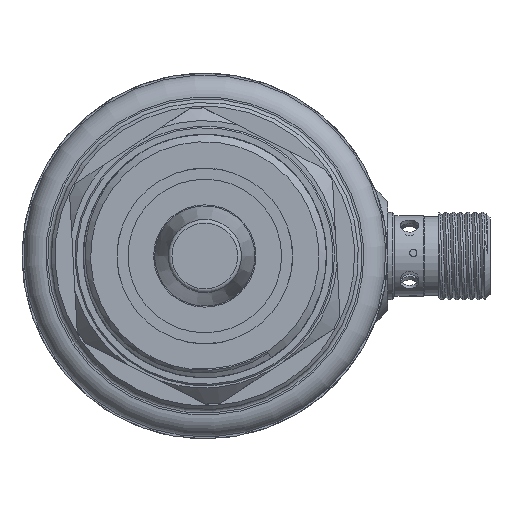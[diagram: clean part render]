
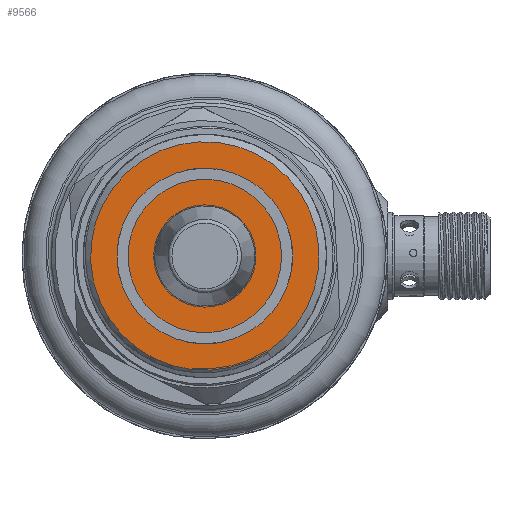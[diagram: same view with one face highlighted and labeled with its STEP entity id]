
A CAD part, front view. The second image highlights one B-rep face of the part: STEP entity #9566.
In plain terms, the highlighted planar face has unit normal (0, -1, 0) as drawn and (-1, 0, 0) by its records, which use the part's own axes.
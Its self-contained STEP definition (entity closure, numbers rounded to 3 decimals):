
#498 = EDGE_LOOP ( 'NONE', ( #2296 ) ) ;
#866 = CARTESIAN_POINT ( 'NONE',  ( 2.5, 0., -7.125 ) ) ;
#1013 = CARTESIAN_POINT ( 'NONE',  ( 2.5, 0., -15.901 ) ) ;
#1470 = DIRECTION ( 'NONE',  ( 0., 0., -1. ) ) ;
#2056 = VERTEX_POINT ( 'NONE', #1013 ) ;
#2296 = ORIENTED_EDGE ( 'NONE', *, *, #5737, .T. ) ;
#2957 = DIRECTION ( 'NONE',  ( 0., 0., -1. ) ) ;
#3328 = CIRCLE ( 'NONE', #12912, 15.626 ) ;
#3643 = FACE_OUTER_BOUND ( 'NONE', #13728, .T. ) ;
#3855 = FACE_BOUND ( 'NONE', #498, .T. ) ;
#5024 = CARTESIAN_POINT ( 'NONE',  ( 2.5, 0., -0.275 ) ) ;
#5685 = CARTESIAN_POINT ( 'NONE',  ( 2.5, 0., -0.275 ) ) ;
#5737 = EDGE_CURVE ( 'NONE', #11626, #11626, #11140, .T. ) ;
#5756 = DIRECTION ( 'NONE',  ( 0., 0., -1. ) ) ;
#5823 = DIRECTION ( 'NONE',  ( 1., 0., 0. ) ) ;
#6309 = EDGE_CURVE ( 'NONE', #2056, #2056, #3328, .T. ) ;
#8430 = DIRECTION ( 'NONE',  ( -1., 0., 0. ) ) ;
#8486 = AXIS2_PLACEMENT_3D ( 'NONE', #5024, #10396, #5756 ) ;
#9566 = ADVANCED_FACE ( 'NONE', ( #3643, #3855 ), #11256, .F. ) ;
#10396 = DIRECTION ( 'NONE',  ( 1., 0., 0. ) ) ;
#11140 = CIRCLE ( 'NONE', #8486, 6.85 ) ;
#11256 = PLANE ( 'NONE',  #13291 ) ;
#11363 = ORIENTED_EDGE ( 'NONE', *, *, #6309, .T. ) ;
#11478 = CARTESIAN_POINT ( 'NONE',  ( 2.5, 0., -0.275 ) ) ;
#11626 = VERTEX_POINT ( 'NONE', #866 ) ;
#12912 = AXIS2_PLACEMENT_3D ( 'NONE', #11478, #8430, #2957 ) ;
#13291 = AXIS2_PLACEMENT_3D ( 'NONE', #5685, #5823, #1470 ) ;
#13728 = EDGE_LOOP ( 'NONE', ( #11363 ) ) ;
